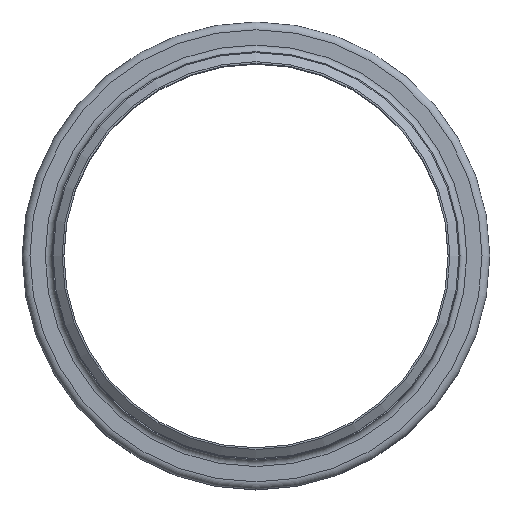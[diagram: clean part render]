
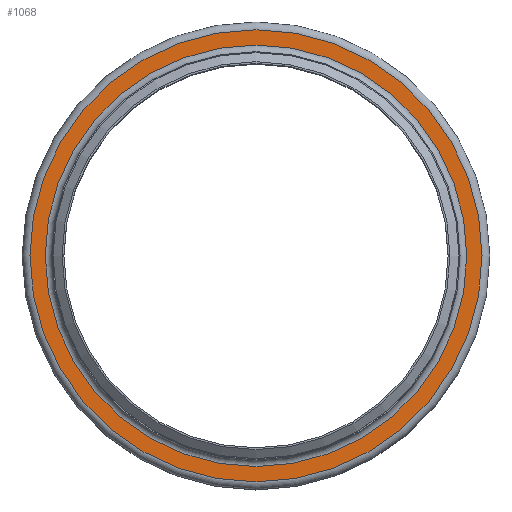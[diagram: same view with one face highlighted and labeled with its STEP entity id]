
A CAD part, top view. The second image highlights one B-rep face of the part: STEP entity #1068.
In plain terms, the highlighted planar face has unit normal (0, 0, 1).
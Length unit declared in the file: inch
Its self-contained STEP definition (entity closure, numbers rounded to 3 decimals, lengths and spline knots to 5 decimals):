
#102=FACE_BOUND('',#282,.T.);
#171=FACE_OUTER_BOUND('',#281,.T.);
#281=EDGE_LOOP('',(#824));
#282=EDGE_LOOP('',(#825));
#402=CIRCLE('',#1264,7.268);
#403=CIRCLE('',#1266,7.7945);
#491=VERTEX_POINT('',#1935);
#492=VERTEX_POINT('',#1939);
#606=EDGE_CURVE('',#491,#491,#402,.T.);
#607=EDGE_CURVE('',#492,#492,#403,.T.);
#824=ORIENTED_EDGE('',*,*,#607,.F.);
#825=ORIENTED_EDGE('',*,*,#606,.T.);
#918=PLANE('',#1265);
#1068=ADVANCED_FACE('',(#171,#102),#918,.T.);
#1264=AXIS2_PLACEMENT_3D('',#1937,#1621,#1622);
#1265=AXIS2_PLACEMENT_3D('',#1938,#1623,#1624);
#1266=AXIS2_PLACEMENT_3D('',#1940,#1625,#1626);
#1621=DIRECTION('center_axis',(0.,0.,
-1.));
#1622=DIRECTION('ref_axis',(1.,0.,0.));
#1623=DIRECTION('center_axis',(0.,0.,
1.));
#1624=DIRECTION('ref_axis',(1.,0.,0.));
#1625=DIRECTION('center_axis',(0.,0.,
-1.));
#1626=DIRECTION('ref_axis',(1.,0.,0.));
#1935=CARTESIAN_POINT('',(7.268,0.,-1.732));
#1937=CARTESIAN_POINT('Origin',(0.,0.,
-1.732));
#1938=CARTESIAN_POINT('Origin',(0.,7.7945,-1.732));
#1939=CARTESIAN_POINT('',(7.7945,0.,-1.732));
#1940=CARTESIAN_POINT('Origin',(0.,0.,
-1.732));
